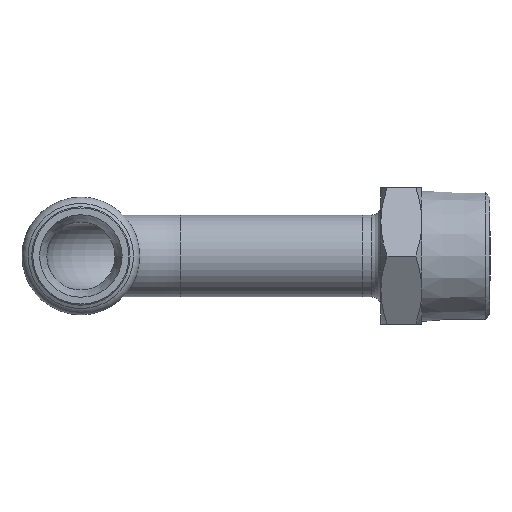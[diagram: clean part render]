
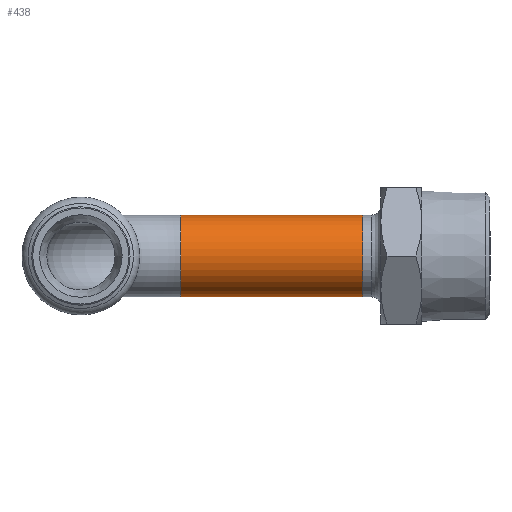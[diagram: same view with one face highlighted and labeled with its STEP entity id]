
A CAD part, left-side view. The second image highlights one B-rep face of the part: STEP entity #438.
In plain terms, the highlighted cylindrical face has radius 9 mm (diameter 18 mm), a full revolution.
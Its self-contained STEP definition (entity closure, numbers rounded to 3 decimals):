
#411=CARTESIAN_POINT('',(22.0,-22.0,0.0));
#412=DIRECTION('',(0.,-1.0,0.0));
#413=DIRECTION('',(0.0,0.0,1.0));
#414=AXIS2_PLACEMENT_3D('',#411,#412,#413);
#415=CYLINDRICAL_SURFACE('',#414,9.);
#416=CARTESIAN_POINT('',(22.,-62.,-9.));
#417=VERTEX_POINT('',#416);
#418=CARTESIAN_POINT('',(22.,-62.,0.0));
#419=DIRECTION('',(0.0,1.0,0.0));
#420=DIRECTION('',(0.0,0.0,1.0));
#421=AXIS2_PLACEMENT_3D('',#418,#419,#420);
#422=CIRCLE('',#421,9.);
#423=EDGE_CURVE('',#417,#417,#422,.T.);
#424=ORIENTED_EDGE('',*,*,#423,.T.);
#425=EDGE_LOOP('',(#424));
#426=FACE_OUTER_BOUND('',#425,.T.);
#427=CARTESIAN_POINT('',(22.,-22.,-9.));
#428=VERTEX_POINT('',#427);
#429=CARTESIAN_POINT('',(22.0,-22.0,0.0));
#430=DIRECTION('',(0.0,1.0,0.0));
#431=DIRECTION('',(0.0,0.0,1.0));
#432=AXIS2_PLACEMENT_3D('',#429,#430,#431);
#433=CIRCLE('',#432,9.);
#434=EDGE_CURVE('',#428,#428,#433,.T.);
#435=ORIENTED_EDGE('',*,*,#434,.F.);
#436=EDGE_LOOP('',(#435));
#437=FACE_BOUND('',#436,.T.);
#438=ADVANCED_FACE('',(#426,#437),#415,.T.);
